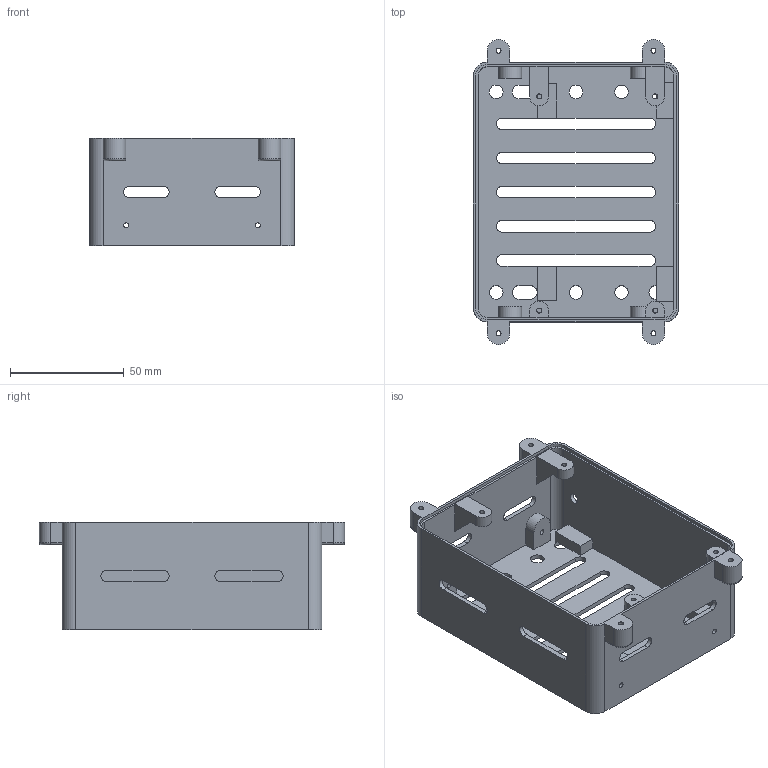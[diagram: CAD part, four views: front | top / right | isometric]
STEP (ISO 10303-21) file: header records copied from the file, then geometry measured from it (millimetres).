
FILE_DESCRIPTION(/* description */ (''),/* implementation_level */ '2;1');
FILE_NAME(/* name */ 'Enclosure_bottom.step',/* time_stamp */ '2025-06-27T05:20:11-07:00',/* author */ (''),/* organization */ (''),/* preprocessor_version */ 'ST-DEVELOPER v20.1',/* originating_system */ 'Autodesk Translation Framework v14.10.0.0',/* authorisation */ '');
FILE_SCHEMA (('AUTOMOTIVE_DESIGN { 1 0 10303 214 3 1 1 }'));
Length unit declared in the file: millimetre
Products named in the file (1): box_bottom
Bounding box: 90 x 133.97 x 47.29 mm (x, y, z)
Volume: 60796.6 mm3; surface area: 57990.6 mm2
Topology: 1 solids, 1 shells, 203 faces, 578 edges, 376 vertices
Faces by surface type: plane 115, cylinder 84, torus 4
Full cylindrical faces by diameter (mm): 2.2 x12, 4 x1, 4.5 x1, 6 x8, 8 x2
Entity records: 6787 total; most frequent: DIRECTION 1172, CARTESIAN_POINT 1158, ORIENTED_EDGE 1156, EDGE_CURVE 578, LINE 392, VECTOR 392, AXIS2_PLACEMENT_3D 390, VERTEX_POINT 376
